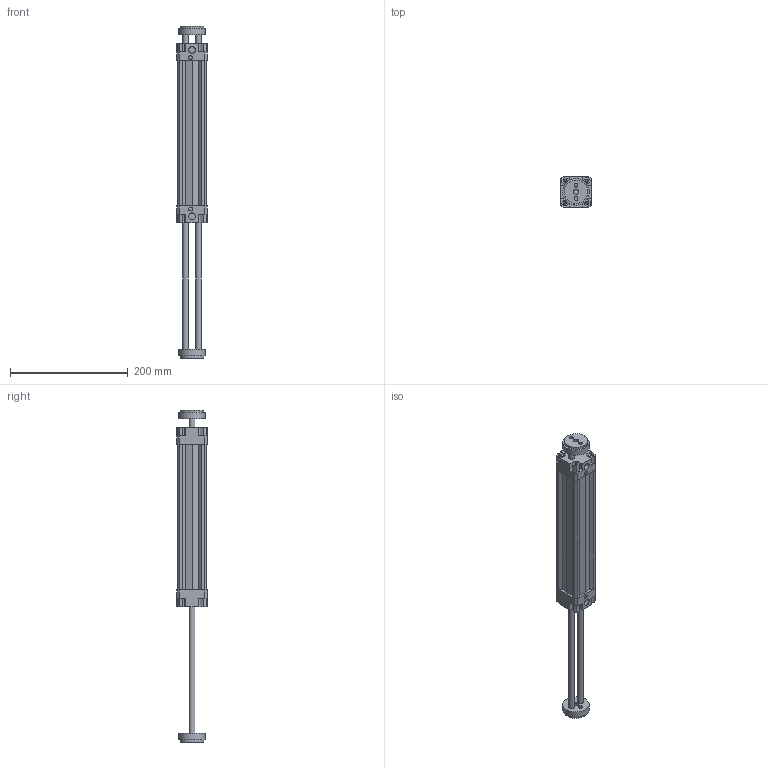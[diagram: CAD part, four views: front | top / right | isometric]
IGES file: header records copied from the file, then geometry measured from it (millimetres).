
Global section: file name: 132#_040_0200_06; native system: Autodesk Inventor 2014; preprocessor: unknown; author: A. Manieri; date: 20161006.154849; units: millimetre
Bounding box: 52 x 52 x 565 mm (x, y, z)
Volume: 480209 mm3; surface area: 163727.3 mm2
Topology: 2 solids, 2 shells, 190 faces, 518 edges, 354 vertices
Faces by surface type: bspline 190
